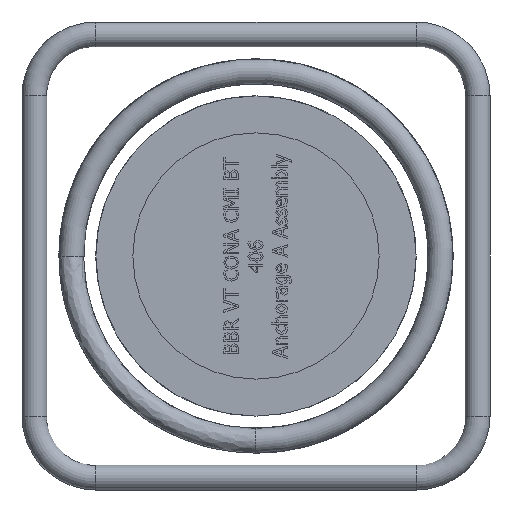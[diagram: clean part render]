
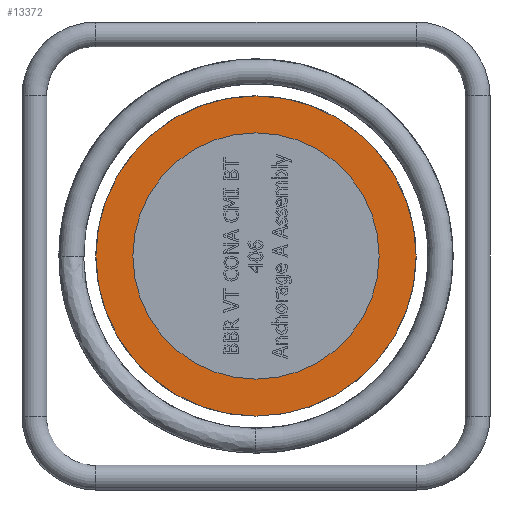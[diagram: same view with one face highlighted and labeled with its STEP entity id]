
A CAD part, left-side view. The second image highlights one B-rep face of the part: STEP entity #13372.
In plain terms, the highlighted planar face has unit normal (-1, 0, 0).
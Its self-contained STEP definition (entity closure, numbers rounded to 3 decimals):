
#3385=PLANE('',#13866);
#3516=FACE_BOUND('',#4975,.T.);
#4165=FACE_OUTER_BOUND('',#4974,.T.);
#4974=EDGE_LOOP('',(#11535));
#4975=EDGE_LOOP('',(#11536));
#5164=CIRCLE('',#13867,65.);
#5165=CIRCLE('',#13868,50.);
#6359=VERTEX_POINT('',#24828);
#6360=VERTEX_POINT('',#24830);
#8109=EDGE_CURVE('',#6359,#6359,#5164,.T.);
#8110=EDGE_CURVE('',#6360,#6360,#5165,.T.);
#11535=ORIENTED_EDGE('',*,*,#8109,.T.);
#11536=ORIENTED_EDGE('',*,*,#8110,.F.);
#13372=ADVANCED_FACE('',(#4165,#3516),#3385,.T.);
#13866=AXIS2_PLACEMENT_3D('',#24827,#15832,#15833);
#13867=AXIS2_PLACEMENT_3D('',#24829,#15834,#15835);
#13868=AXIS2_PLACEMENT_3D('',#24831,#15836,#15837);
#15832=DIRECTION('center_axis',(-1.,0.,0.));
#15833=DIRECTION('ref_axis',(0.,-1.,0.));
#15834=DIRECTION('center_axis',(-1.,0.,0.));
#15835=DIRECTION('ref_axis',(0.,0.,
-1.));
#15836=DIRECTION('center_axis',(-1.,0.,0.));
#15837=DIRECTION('ref_axis',(0.,0.,
-1.));
#24827=CARTESIAN_POINT('Origin',(-112.151,0.,
-50.5));
#24828=CARTESIAN_POINT('',(-112.151,0.,-65.));
#24829=CARTESIAN_POINT('Origin',(-112.151,0.,
0.));
#24830=CARTESIAN_POINT('',(-112.151,0.,50.));
#24831=CARTESIAN_POINT('Origin',(-112.151,0.,
0.));
